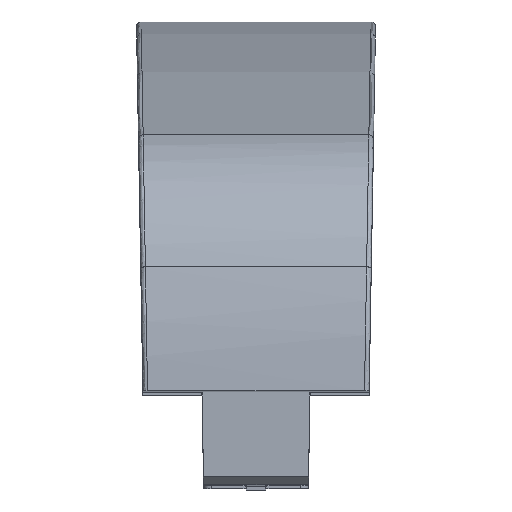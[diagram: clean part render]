
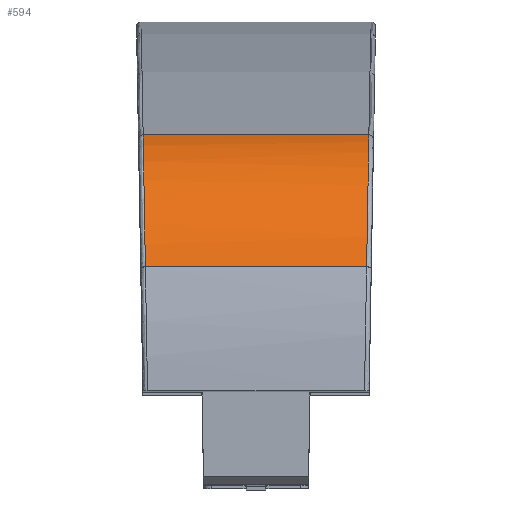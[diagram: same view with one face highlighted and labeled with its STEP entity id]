
A CAD part, top view. The second image highlights one B-rep face of the part: STEP entity #594.
In plain terms, the highlighted cylindrical face has radius 12.5 mm (diameter 25 mm), a partial arc.
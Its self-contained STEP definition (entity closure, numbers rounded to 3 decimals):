
#64 =( BOUNDED_CURVE ( )  B_SPLINE_CURVE ( 3, ( #1926, #2247, #2672, #3839 ),
 .UNSPECIFIED., .F., .T. ) 
 B_SPLINE_CURVE_WITH_KNOTS ( ( 4, 4 ),
 ( 1.857, 2.888 ),
 .UNSPECIFIED. ) 
 CURVE ( )  GEOMETRIC_REPRESENTATION_ITEM ( )  RATIONAL_B_SPLINE_CURVE ( ( 1., 0.913, 0.913, 1. ) ) 
 REPRESENTATION_ITEM ( '' )  );
#243 = CARTESIAN_POINT ( 'NONE',  ( 7.315, 37.069, 58.081 ) ) ;
#402 = ORIENTED_EDGE ( 'NONE', *, *, #3438, .F. ) ;
#449 = EDGE_CURVE ( 'NONE', #2144, #5028, #2402, .T. ) ;
#594 = ADVANCED_FACE ( 'NONE', ( #3893 ), #3257, .T. ) ;
#733 = ORIENTED_EDGE ( 'NONE', *, *, #3837, .T. ) ;
#947 = CARTESIAN_POINT ( 'NONE',  ( -7.75, 28.5, 66.936 ) ) ;
#969 = DIRECTION ( 'NONE',  ( -1., 0., 0. ) ) ;
#1134 = DIRECTION ( 'NONE',  ( -1., 0., 0. ) ) ;
#1340 = LINE ( 'NONE', #2179, #4352 ) ;
#1627 = VECTOR ( 'NONE', #969, 1000. ) ;
#1635 = EDGE_CURVE ( 'NONE', #3775, #2144, #1340, .T. ) ;
#1639 = DIRECTION ( 'NONE',  ( 0., 0., 1. ) ) ;
#1926 = CARTESIAN_POINT ( 'NONE',  ( 7.169, 28.5, 66.936 ) ) ;
#2096 = CARTESIAN_POINT ( 'NONE',  ( -7.315, 37.069, 58.081 ) ) ;
#2144 = VERTEX_POINT ( 'NONE', #2096 ) ;
#2179 = CARTESIAN_POINT ( 'NONE',  ( -7.75, 37.069, 58.081 ) ) ;
#2247 = CARTESIAN_POINT ( 'NONE',  ( 7.243, 32.814, 65.666 ) ) ;
#2306 = CARTESIAN_POINT ( 'NONE',  ( -7.169, 28.5, 66.936 ) ) ;
#2402 =( BOUNDED_CURVE ( )  B_SPLINE_CURVE ( 3, ( #4286, #3462, #4242, #2306 ),
 .UNSPECIFIED., .F., .F. ) 
 B_SPLINE_CURVE_WITH_KNOTS ( ( 4, 4 ),
 ( 0.254, 1.284 ),
 .UNSPECIFIED. ) 
 CURVE ( )  GEOMETRIC_REPRESENTATION_ITEM ( )  RATIONAL_B_SPLINE_CURVE ( ( 1., 0.913, 0.913, 1. ) ) 
 REPRESENTATION_ITEM ( '' )  );
#2672 = CARTESIAN_POINT ( 'NONE',  ( 7.296, 35.942, 62.434 ) ) ;
#2700 = LINE ( 'NONE', #947, #1627 ) ;
#2812 = EDGE_LOOP ( 'NONE', ( #3598, #3614, #402, #733 ) ) ;
#2932 = CARTESIAN_POINT ( 'NONE',  ( -7.169, 28.5, 66.936 ) ) ;
#3115 = AXIS2_PLACEMENT_3D ( 'NONE', #4722, #1134, #1639 ) ;
#3257 = CYLINDRICAL_SURFACE ( 'NONE', #3115, 12.5 ) ;
#3438 = EDGE_CURVE ( 'NONE', #4785, #5028, #2700, .T. ) ;
#3462 = CARTESIAN_POINT ( 'NONE',  ( -7.296, 35.942, 62.434 ) ) ;
#3598 = ORIENTED_EDGE ( 'NONE', *, *, #1635, .T. ) ;
#3614 = ORIENTED_EDGE ( 'NONE', *, *, #449, .T. ) ;
#3639 = CARTESIAN_POINT ( 'NONE',  ( 7.169, 28.5, 66.936 ) ) ;
#3775 = VERTEX_POINT ( 'NONE', #243 ) ;
#3837 = EDGE_CURVE ( 'NONE', #4785, #3775, #64, .T. ) ;
#3839 = CARTESIAN_POINT ( 'NONE',  ( 7.315, 37.069, 58.081 ) ) ;
#3893 = FACE_OUTER_BOUND ( 'NONE', #2812, .T. ) ;
#4242 = CARTESIAN_POINT ( 'NONE',  ( -7.243, 32.814, 65.666 ) ) ;
#4286 = CARTESIAN_POINT ( 'NONE',  ( -7.315, 37.069, 58.081 ) ) ;
#4352 = VECTOR ( 'NONE', #4935, 1000. ) ;
#4722 = CARTESIAN_POINT ( 'NONE',  ( 0., 24.969, 54.945 ) ) ;
#4785 = VERTEX_POINT ( 'NONE', #3639 ) ;
#4935 = DIRECTION ( 'NONE',  ( -1., 0., 0. ) ) ;
#5028 = VERTEX_POINT ( 'NONE', #2932 ) ;
